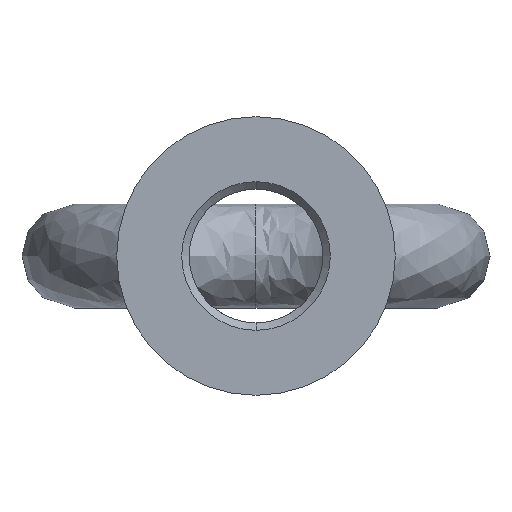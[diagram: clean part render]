
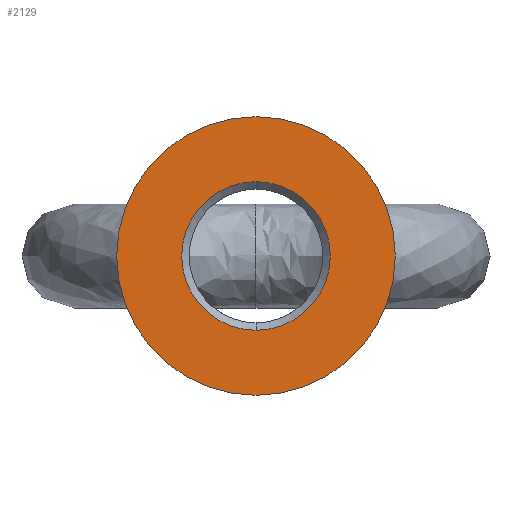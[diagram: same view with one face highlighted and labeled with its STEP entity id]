
A CAD part, front view. The second image highlights one B-rep face of the part: STEP entity #2129.
In plain terms, the highlighted planar face has unit normal (0, -1, 0).
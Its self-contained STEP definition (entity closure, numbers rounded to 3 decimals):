
#89 = AXIS2_PLACEMENT_3D ( 'NONE', #2854, #2619, #312 ) ;
#94 = DIRECTION ( 'NONE',  ( 0., 1., 0. ) ) ;
#154 = EDGE_CURVE ( 'NONE', #873, #2230, #250, .T. ) ;
#250 = CIRCLE ( 'NONE', #89, 37.5 ) ;
#312 = DIRECTION ( 'NONE',  ( 0., 0., 1. ) ) ;
#434 = EDGE_LOOP ( 'NONE', ( #603, #2290 ) ) ;
#488 = DIRECTION ( 'NONE',  ( 0., 0., -1. ) ) ;
#515 = CARTESIAN_POINT ( 'NONE',  ( 0., 0., 37.5 ) ) ;
#603 = ORIENTED_EDGE ( 'NONE', *, *, #2949, .T. ) ;
#668 = DIRECTION ( 'NONE',  ( 0., 1., 0. ) ) ;
#841 = CARTESIAN_POINT ( 'NONE',  ( 0., 0., 0. ) ) ;
#849 = CARTESIAN_POINT ( 'NONE',  ( 0., 0., 20. ) ) ;
#873 = VERTEX_POINT ( 'NONE', #2495 ) ;
#1019 = CARTESIAN_POINT ( 'NONE',  ( 0., 0., 0. ) ) ;
#1067 = ORIENTED_EDGE ( 'NONE', *, *, #2510, .F. ) ;
#1120 = AXIS2_PLACEMENT_3D ( 'NONE', #841, #3177, #1862 ) ;
#1153 = EDGE_LOOP ( 'NONE', ( #1998, #1067 ) ) ;
#1168 = AXIS2_PLACEMENT_3D ( 'NONE', #2401, #2862, #2592 ) ;
#1290 = AXIS2_PLACEMENT_3D ( 'NONE', #1019, #668, #488 ) ;
#1331 = EDGE_CURVE ( 'NONE', #1941, #3301, #2311, .T. ) ;
#1480 = CARTESIAN_POINT ( 'NONE',  ( 0., 0., -20. ) ) ;
#1862 = DIRECTION ( 'NONE',  ( 0., 0., -1. ) ) ;
#1938 = PLANE ( 'NONE',  #1120 ) ;
#1941 = VERTEX_POINT ( 'NONE', #849 ) ;
#1998 = ORIENTED_EDGE ( 'NONE', *, *, #154, .F. ) ;
#2038 = CIRCLE ( 'NONE', #1168, 37.5 ) ;
#2100 = CIRCLE ( 'NONE', #3003, 20. ) ;
#2129 = ADVANCED_FACE ( 'NONE', ( #2187, #3220 ), #1938, .T. ) ;
#2187 = FACE_BOUND ( 'NONE', #434, .T. ) ;
#2230 = VERTEX_POINT ( 'NONE', #515 ) ;
#2290 = ORIENTED_EDGE ( 'NONE', *, *, #1331, .T. ) ;
#2311 = CIRCLE ( 'NONE', #1290, 20. ) ;
#2401 = CARTESIAN_POINT ( 'NONE',  ( 0., 0., 0. ) ) ;
#2495 = CARTESIAN_POINT ( 'NONE',  ( 0., 0., -37.5 ) ) ;
#2510 = EDGE_CURVE ( 'NONE', #2230, #873, #2038, .T. ) ;
#2592 = DIRECTION ( 'NONE',  ( 0., 0., 1. ) ) ;
#2619 = DIRECTION ( 'NONE',  ( 0., 1., 0. ) ) ;
#2854 = CARTESIAN_POINT ( 'NONE',  ( 0., 0., 0. ) ) ;
#2862 = DIRECTION ( 'NONE',  ( 0., 1., 0. ) ) ;
#2923 = CARTESIAN_POINT ( 'NONE',  ( 0., 0., 0. ) ) ;
#2949 = EDGE_CURVE ( 'NONE', #3301, #1941, #2100, .T. ) ;
#3003 = AXIS2_PLACEMENT_3D ( 'NONE', #2923, #94, #3225 ) ;
#3177 = DIRECTION ( 'NONE',  ( 0., -1., 0. ) ) ;
#3220 = FACE_OUTER_BOUND ( 'NONE', #1153, .T. ) ;
#3225 = DIRECTION ( 'NONE',  ( 0., 0., -1. ) ) ;
#3301 = VERTEX_POINT ( 'NONE', #1480 ) ;
